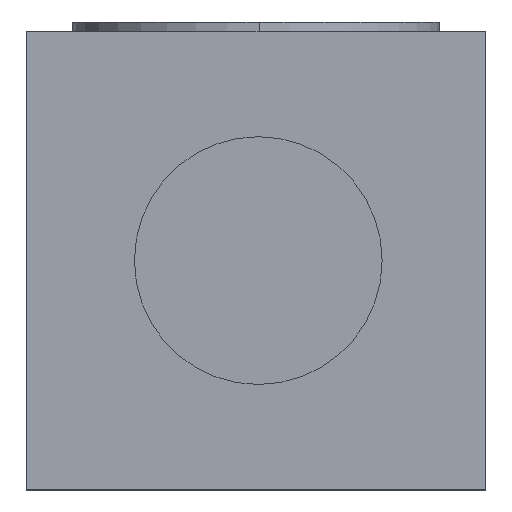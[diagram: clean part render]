
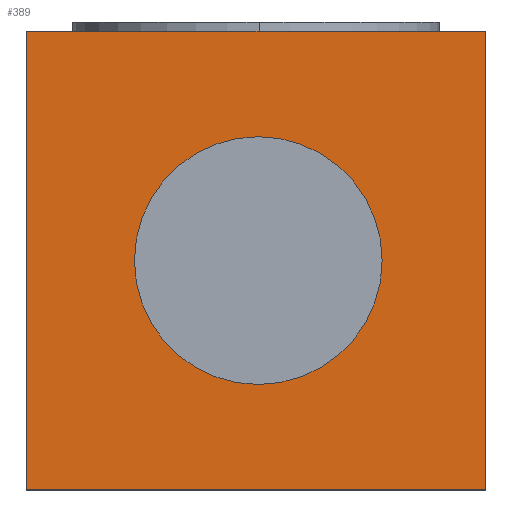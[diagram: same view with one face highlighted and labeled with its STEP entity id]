
A CAD part, front view. The second image highlights one B-rep face of the part: STEP entity #389.
In plain terms, the highlighted planar face has unit normal (0, -1, 0).
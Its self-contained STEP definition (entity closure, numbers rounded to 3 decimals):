
#389=ADVANCED_FACE('',(#962,#963),#964,.F.);
#962=FACE_BOUND('',#1720,.T.);
#963=FACE_OUTER_BOUND('',#1721,.T.);
#964=PLANE('',#1722);
#1720=EDGE_LOOP('',(#2763,#2764));
#1721=EDGE_LOOP('',(#2765,#2766,#2767,#2768));
#1722=AXIS2_PLACEMENT_3D('',#2769,#2770,#2771);
#2763=ORIENTED_EDGE('',*,*,#4541,.T.);
#2764=ORIENTED_EDGE('',*,*,#4542,.T.);
#2765=ORIENTED_EDGE('',*,*,#4543,.T.);
#2766=ORIENTED_EDGE('',*,*,#4544,.F.);
#2767=ORIENTED_EDGE('',*,*,#4545,.F.);
#2768=ORIENTED_EDGE('',*,*,#4313,.F.);
#2769=CARTESIAN_POINT('',(0.0,-12.0,0.));
#2770=DIRECTION('',(0.0,1.0,0.));
#2771=DIRECTION('',(0.,0.,1.0));
#4313=EDGE_CURVE('',#5080,#5075,#5082,.T.);
#4541=EDGE_CURVE('',#5442,#5443,#5444,.T.);
#4542=EDGE_CURVE('',#5443,#5442,#5445,.T.);
#4543=EDGE_CURVE('',#5080,#5446,#5447,.T.);
#4544=EDGE_CURVE('',#5448,#5446,#5449,.T.);
#4545=EDGE_CURVE('',#5075,#5448,#5450,.T.);
#5075=VERTEX_POINT('',#6088);
#5080=VERTEX_POINT('',#6095);
#5082=LINE('',#6098,#6099);
#5442=VERTEX_POINT('',#6547);
#5443=VERTEX_POINT('',#6548);
#5444=CIRCLE('',#6549,1.35);
#5445=CIRCLE('',#6550,1.35);
#5446=VERTEX_POINT('',#6551);
#5447=LINE('',#6552,#6553);
#5448=VERTEX_POINT('',#6554);
#5449=LINE('',#6555,#6556);
#5450=LINE('',#6557,#6558);
#6088=CARTESIAN_POINT('',(2.5,-12.0,2.5));
#6095=CARTESIAN_POINT('',(-2.5,-12.0,2.5));
#6098=CARTESIAN_POINT('',(0.0,-12.0,2.5));
#6099=VECTOR('',#7335,1.0);
#6547=CARTESIAN_POINT('',(1.375,-12.,0.));
#6548=CARTESIAN_POINT('',(-1.325,-12.,0.));
#6549=AXIS2_PLACEMENT_3D('',#7679,#7680,#7681);
#6550=AXIS2_PLACEMENT_3D('',#7682,#7683,#7684);
#6551=CARTESIAN_POINT('',(-2.5,-12.0,-2.5));
#6552=CARTESIAN_POINT('',(-2.5,-12.0,0.));
#6553=VECTOR('',#7685,1.0);
#6554=CARTESIAN_POINT('',(2.5,-12.0,-2.5));
#6555=CARTESIAN_POINT('',(0.0,-12.0,-2.5));
#6556=VECTOR('',#7686,1.0);
#6557=CARTESIAN_POINT('',(2.5,-12.0,0.));
#6558=VECTOR('',#7687,1.0);
#7335=DIRECTION('',(1.0,0.,0.));
#7679=CARTESIAN_POINT('',(0.025,-12.,0.));
#7680=DIRECTION('',(0.,1.0,0.));
#7681=DIRECTION('',(-1.0,0.0,0.));
#7682=CARTESIAN_POINT('',(0.025,-12.,0.));
#7683=DIRECTION('',(0.,1.0,0.));
#7684=DIRECTION('',(-1.0,0.0,0.));
#7685=DIRECTION('',(0.,0.,-1.0));
#7686=DIRECTION('',(-1.0,0.,0.));
#7687=DIRECTION('',(0.,0.,-1.0));
